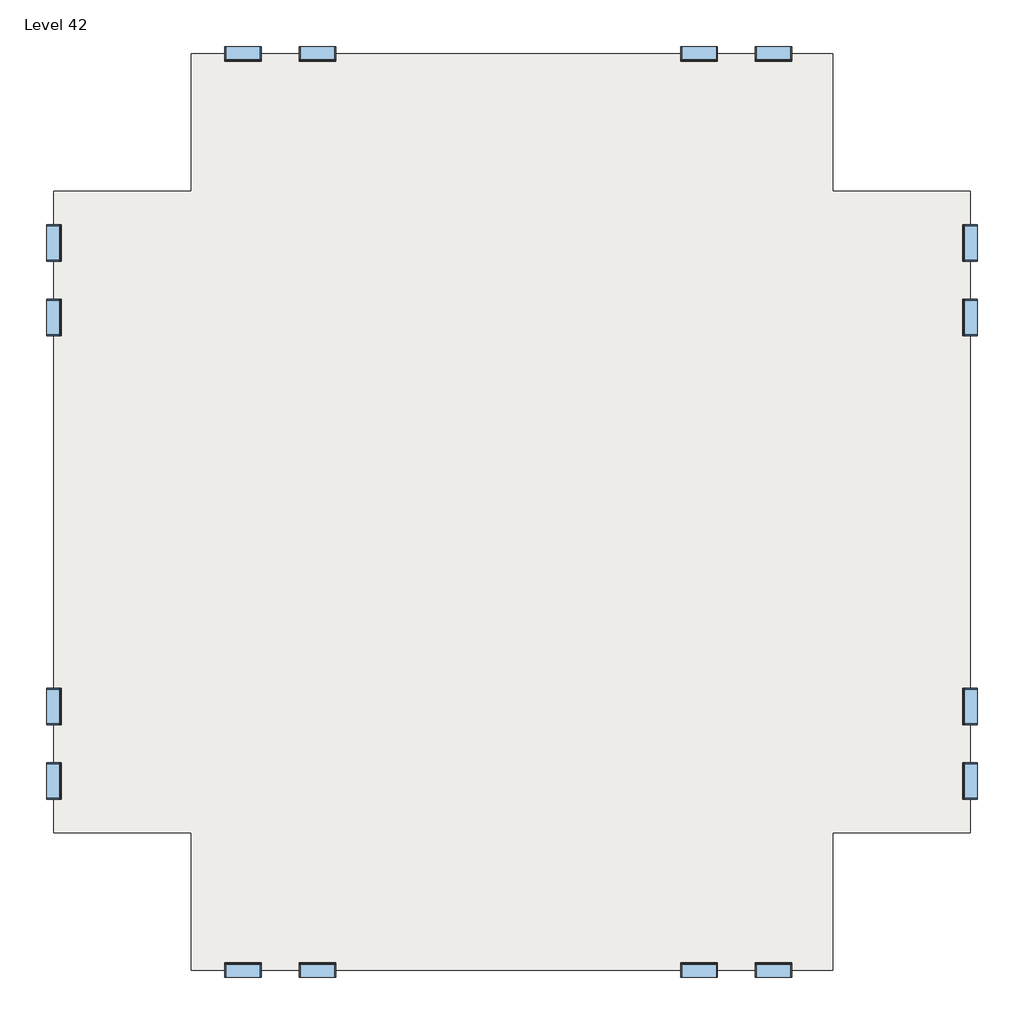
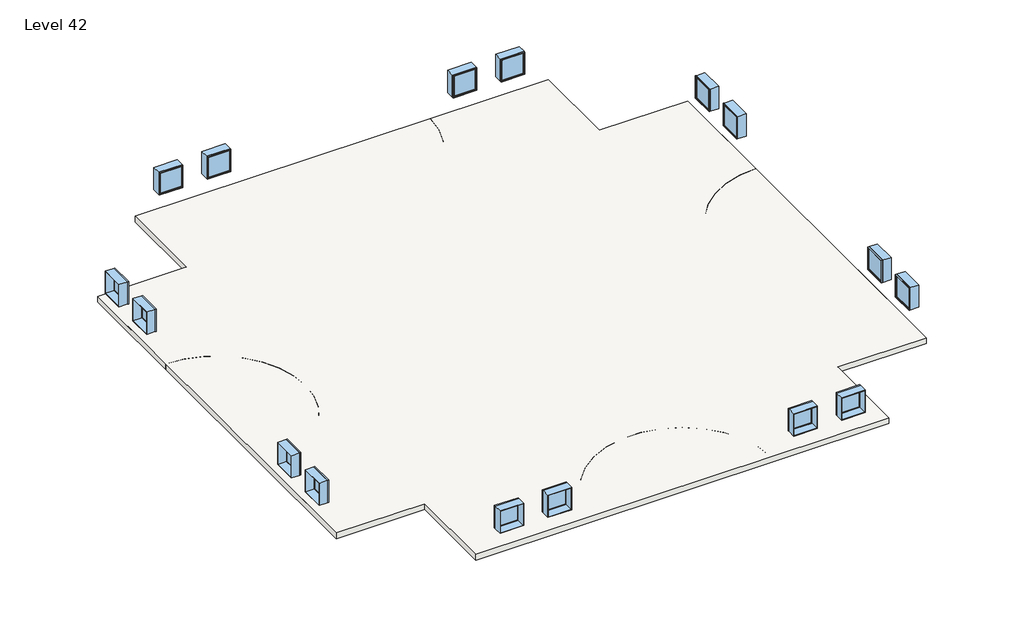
# One storey: 16 windows, 3 slabs.
"""IFC4 building model written with IfcOpenShell, lengths in millimetres."""

import ifcopenshell
import ifcopenshell.guid

model = None  # the IFC model being written
_history = None  # IfcOwnerHistory: only IFC2X3 demands one
_inside = {}  # id of a spatial element -> (the spatial element, [elements in it])
_under = {}  # id of a project, library or spatial element -> (it, [spatial elements below it])
_declared = {}  # id of a project -> (the project, [libraries it declares])
_typed = {}  # id of a type object -> (the type object, [elements of that type])
_made_of = {}  # id of a material, layer set ... -> (it, [elements and type objects made of it])


def new_model(schema):
    """Start an empty IFC model of exactly this schema.

    Asked for "IFC4X3", IfcOpenShell would pick the latest addendum, in which some entities
    have other attributes; the version numbers below select the first issue.
    IFC2X3 requires an IfcOwnerHistory on every rooted entity: one is made here for all.
    """
    global model, _history
    if schema == "IFC4X3":
        model = ifcopenshell.file(schema_version=(4, 3, 0, 0))
    else:
        model = ifcopenshell.file(schema=schema)
    _inside.clear()
    _under.clear()
    _declared.clear()
    _typed.clear()
    _made_of.clear()
    _history = None
    if model.schema == "IFC2X3":
        org = make("IfcOrganization", Name="unknown")
        user = make(
            "IfcPersonAndOrganization",
            ThePerson=make("IfcPerson", FamilyName="unknown"),
            TheOrganization=org,
        )
        app = make(
            "IfcApplication",
            ApplicationDeveloper=org,
            Version="unknown",
            ApplicationFullName="unknown",
            ApplicationIdentifier="unknown",
        )
        _history = make(
            "IfcOwnerHistory",
            OwningUser=user,
            OwningApplication=app,
            ChangeAction="ADDED",
            CreationDate=0,
        )
    return model


def make(cls, **values):
    """One entity of the class cls with the attributes given. An attribute that is None is left unset."""
    return model.create_entity(
        cls, **{name: value for name, value in values.items() if value is not None}
    )


def rooted(cls, **values):
    """An entity with a GlobalId (a new one), such as an element, a storey or a relation."""
    return make(cls, GlobalId=ifcopenshell.guid.new(), OwnerHistory=_history, **values)


def si_unit(unit_type, name, prefix=None):
    """IfcSIUnit, for example si_unit("LENGTHUNIT", "METRE", prefix="MILLI")."""
    return make("IfcSIUnit", UnitType=unit_type, Prefix=prefix, Name=name)


def assignment(units):
    """IfcUnitAssignment: the units of a project."""
    return None if units is None else make("IfcUnitAssignment", Units=units)


def point(xyz):
    """IfcCartesianPoint."""
    return None if xyz is None else make("IfcCartesianPoint", Coordinates=xyz)


def direction(xyz):
    """IfcDirection."""
    return None if xyz is None else make("IfcDirection", DirectionRatios=xyz)


def frame(location, z_axis=None, x_axis=None):
    """IfcAxis2Placement3D, a coordinate frame: its origin and axes. An axis left out is left unset."""
    return make(
        "IfcAxis2Placement3D",
        Location=point(location),
        Axis=direction(z_axis),
        RefDirection=direction(x_axis),
    )


def frame_2d(location, x_axis=None):
    """IfcAxis2Placement2D, a coordinate frame in the plane: its origin and x axis."""
    return make(
        "IfcAxis2Placement2D", Location=point(location), RefDirection=direction(x_axis)
    )


def origin():
    """The frame at (0, 0, 0) with its axes left unset."""
    return frame((0.0, 0.0, 0.0))


def place(relative_to, where):
    """IfcLocalPlacement: puts the frame where relative to a parent placement (None: the world)."""
    return make(
        "IfcLocalPlacement", PlacementRelTo=relative_to, RelativePlacement=where
    )


def context(
    kind, dimensions, precision=None, world=None, true_north=None, identifier=None
):
    """IfcGeometricRepresentationContext, for example the 3D "Model" context."""
    return make(
        "IfcGeometricRepresentationContext",
        ContextIdentifier=identifier,
        ContextType=kind,
        CoordinateSpaceDimension=dimensions,
        Precision=precision,
        WorldCoordinateSystem=world,
        TrueNorth=true_north,
    )


def project(units=None, contexts=None):
    """IfcProject with its units and contexts."""
    return rooted(
        "IfcProject",
        Name="project",
        RepresentationContexts=contexts,
        UnitsInContext=assignment(units),
    )


def spatial(cls, under=None, at=None, **own):
    """A site, building, storey or space (cls), placed at a placement, below another one or the project."""
    s = rooted(cls, ObjectPlacement=at, **own)
    if under is not None:
        _under.setdefault(under.id(), (under, []))[1].append(s)
    return s


def polyline(points):
    """IfcPolyline through the points."""
    return make("IfcPolyline", Points=[point(p) for p in points])


def circle_curve(where, radius):
    """IfcCircle in the frame where."""
    return make("IfcCircle", Position=where, Radius=radius)


def trimmed(basis, trim1, trim2, sense, master):
    """IfcTrimmedCurve: the piece of a basis curve between two trims."""
    return make(
        "IfcTrimmedCurve",
        BasisCurve=basis,
        Trim1=trim1,
        Trim2=trim2,
        SenseAgreement=sense,
        MasterRepresentation=master,
    )


def segment(curve, same_sense, transition):
    """IfcCompositeCurveSegment."""
    return make(
        "IfcCompositeCurveSegment",
        Transition=transition,
        SameSense=same_sense,
        ParentCurve=curve,
    )


def composite_curve(segments, self_intersect=None):
    """IfcCompositeCurve: segments joined end to end."""
    return make("IfcCompositeCurve", Segments=segments, SelfIntersect=self_intersect)


def outline(outer, holes=None, kind="AREA"):
    """IfcArbitraryClosedProfileDef: a profile drawn as a closed curve; with holes, ...WithVoids."""
    if holes is None:
        return make("IfcArbitraryClosedProfileDef", ProfileType=kind, OuterCurve=outer)
    return make(
        "IfcArbitraryProfileDefWithVoids",
        ProfileType=kind,
        OuterCurve=outer,
        InnerCurves=holes,
    )


def extrude(swept, where, along, depth):
    """IfcExtrudedAreaSolid: the profile swept, set in the frame where, extruded along a direction by depth."""
    return make(
        "IfcExtrudedAreaSolid",
        SweptArea=swept,
        Position=where,
        ExtrudedDirection=direction(along),
        Depth=depth,
    )


def shape(context_of_items, identifier, shape_type, items):
    """IfcShapeRepresentation: the items that make up one representation, for example the "Body"."""
    return make(
        "IfcShapeRepresentation",
        ContextOfItems=context_of_items,
        RepresentationIdentifier=identifier,
        RepresentationType=shape_type,
        Items=items,
    )


def source(mapping_origin, context_of_items, identifier, shape_type, items):
    """IfcRepresentationMap: a shape defined once, which mapped items show again and again."""
    return make(
        "IfcRepresentationMap",
        MappingOrigin=mapping_origin,
        MappedRepresentation=shape(context_of_items, identifier, shape_type, items),
    )


def transform(
    local_origin,
    x_axis=None,
    y_axis=None,
    z_axis=None,
    scale=None,
    scale2=None,
    scale3=None,
    uniform=True,
):
    """IfcCartesianTransformationOperator3D, or its non-uniform kind. x_axis, y_axis, z_axis: its Axis1, 2, 3."""
    if uniform:
        return make(
            "IfcCartesianTransformationOperator3D",
            Axis1=direction(x_axis),
            Axis2=direction(y_axis),
            LocalOrigin=point(local_origin),
            Scale=scale,
            Axis3=direction(z_axis),
        )
    return make(
        "IfcCartesianTransformationOperator3DnonUniform",
        Axis1=direction(x_axis),
        Axis2=direction(y_axis),
        LocalOrigin=point(local_origin),
        Scale=scale,
        Axis3=direction(z_axis),
        Scale2=scale2,
        Scale3=scale3,
    )


def mapped(mapping_source, mapping_target):
    """IfcMappedItem: shows the shape of a source again, moved by a transform."""
    return make(
        "IfcMappedItem", MappingSource=mapping_source, MappingTarget=mapping_target
    )


def made_of(thing, what):
    """Note that an element or type object is made of a material, layer set ...; save() writes the relation."""
    if what is not None:
        _made_of.setdefault(what.id(), (what, []))[1].append(thing)
    return thing


def element(
    cls,
    number,
    at=None,
    inside=None,
    cuts=None,
    type_object=None,
    material=None,
    context=None,
    identifier="Body",
    shape_type=None,
    held_by="IfcProductDefinitionShape",
    body=None,
    shapes=None,
    **own,
):
    """One element of the class cls, such as IfcWall. Its Tag is "e" and its number.

    at: its placement. inside: the storey or other place that contains it. cuts: it is an
    opening in that element (IfcRelVoidsElement). A single representation is given by context,
    identifier, shape_type and body (its items); several are given by shapes. held_by: the class
    of the entity that holds the representations. save() writes the other relations.
    """
    e = rooted(cls, Tag="e%d" % number, ObjectPlacement=at, **own)
    if body is not None:
        shapes = [shape(context, identifier, shape_type, body)]
    if shapes is not None:
        e.Representation = make(held_by, Representations=shapes)
    if inside is not None:
        _inside.setdefault(inside.id(), (inside, []))[1].append(e)
    if cuts is not None:
        rooted(
            "IfcRelVoidsElement", RelatingBuildingElement=cuts, RelatedOpeningElement=e
        )
    if type_object is not None:
        _typed.setdefault(type_object.id(), (type_object, []))[1].append(e)
    return made_of(e, material)


def aggregate(whole, parts):
    """IfcRelAggregates: a whole, such as a stair, and the parts it consists of."""
    return rooted("IfcRelAggregates", RelatingObject=whole, RelatedObjects=parts)


def save(model, path):
    """Write the relations noted so far, then the file.

    IfcRelAggregates (storeys below a building ...), IfcRelContainedInSpatialStructure (elements
    in a storey), IfcRelDefinesByType, IfcRelAssociatesMaterial and IfcRelDeclares: one each for
    every whole, place, type object, material and project.
    """
    for whole, parts in _under.values():
        aggregate(whole, parts)
    for where, things in _inside.values():
        rooted(
            "IfcRelContainedInSpatialStructure",
            RelatedElements=things,
            RelatingStructure=where,
        )
    for kind, things in _typed.values():
        rooted("IfcRelDefinesByType", RelatedObjects=things, RelatingType=kind)
    for what, things in _made_of.values():
        rooted("IfcRelAssociatesMaterial", RelatedObjects=things, RelatingMaterial=what)
    for by, libraries in _declared.values():
        rooted("IfcRelDeclares", RelatingContext=by, RelatedDefinitions=libraries)
    model.write(path)


def window_d0035ecf(model_context):
    return source(origin(), model_context, "Body", "SweptSolid", [
        extrude(outline(polyline([(508.0, 200.025), (-584.2, 200.025), (-584.2, 212.725), (508.0, 212.725), (508.0, 200.025)])), frame((0.0, 0.0, 977.9), z_axis=(0.0, 0.0, 1.0), x_axis=(1.0, 0.0, 0.0)), (0.0, 0.0, 1.0), 1092.2),
        extrude(outline(polyline([(2114.55, -628.65), (933.45, -628.65), (933.45, 552.45), (2114.55, 552.45), (2114.55, -628.65)]), holes=[polyline([(2070.1, -584.2), (2070.1, 508.0), (977.9, 508.0), (977.9, -584.2), (2070.1, -584.2)])]), frame((0.0, 184.15, 0.0), z_axis=(0.0, 1.0, 0.0), x_axis=(0.0, 0.0, 1.0)), (0.0, 0.0, 1.0), 44.45),
        extrude(outline(polyline([(2133.6, -647.7), (914.4, -647.7), (914.4, 571.5), (2133.6, 571.5), (2133.6, -647.7)]), holes=[polyline([(2101.85, -615.95), (2101.85, 539.75), (946.15, 539.75), (946.15, -615.95), (2101.85, -615.95)])]), frame((0.0, -247.65, 0.0), z_axis=(0.0, 1.0, 0.0), x_axis=(0.0, 0.0, 1.0)), (0.0, 0.0, 1.0), 431.8),
        extrude(outline(polyline([(2133.6, 571.5), (2133.6, -647.7), (914.4, -647.7), (914.4, 571.5), (2133.6, 571.5)]), holes=[polyline([(2114.55, 552.45), (933.45, 552.45), (933.45, -628.65), (2114.55, -628.65), (2114.55, 552.45)])]), frame((0.0, 184.15, 0.0), z_axis=(0.0, 1.0, 0.0), x_axis=(0.0, 0.0, 1.0)), (0.0, 0.0, 1.0), 63.5),
    ])


def window_d434eb62(model_context):
    return source(origin(), model_context, "Body", "SweptSolid", [
        extrude(outline(polyline([(508.0, -200.025), (508.0, -212.725), (-584.2, -212.725), (-584.2, -200.025), (508.0, -200.025)])), frame((0.0, 0.0, 977.9), z_axis=(0.0, 0.0, 1.0), x_axis=(1.0, 0.0, 0.0)), (0.0, 0.0, 1.0), 1092.2),
        extrude(outline(polyline([(2114.55, -628.65), (933.45, -628.65), (933.45, 552.45), (2114.55, 552.45), (2114.55, -628.65)]), holes=[polyline([(2070.1, -584.2), (2070.1, 508.0), (977.9, 508.0), (977.9, -584.2), (2070.1, -584.2)])]), frame((0.0, -228.6, 0.0), z_axis=(0.0, 1.0, 0.0), x_axis=(0.0, 0.0, 1.0)), (0.0, 0.0, 1.0), 44.45),
        extrude(outline(polyline([(2133.6, -647.7), (914.4, -647.7), (914.4, 571.5), (2133.6, 571.5), (2133.6, -647.7)]), holes=[polyline([(2101.85, -615.95), (2101.85, 539.75), (946.15, 539.75), (946.15, -615.95), (2101.85, -615.95)])]), frame((0.0, -184.15, 0.0), z_axis=(0.0, 1.0, 0.0), x_axis=(0.0, 0.0, 1.0)), (0.0, 0.0, 1.0), 431.8),
        extrude(outline(polyline([(2133.6, 571.5), (2133.6, -647.7), (914.4, -647.7), (914.4, 571.5), (2133.6, 571.5)]), holes=[polyline([(2114.55, 552.45), (933.45, 552.45), (933.45, -628.65), (2114.55, -628.65), (2114.55, 552.45)])]), frame((0.0, -247.65, 0.0), z_axis=(0.0, 1.0, 0.0), x_axis=(0.0, 0.0, 1.0)), (0.0, 0.0, 1.0), 63.5),
    ])


model = new_model("IFC4")

# Units and contexts
model_context = context("Model", 3, world=origin())
ifc_project = project(units=[si_unit("LENGTHUNIT", "METRE", prefix="MILLI")], contexts=[model_context])

# Site, building, storey
site = spatial("IfcSite", under=ifc_project)
building = spatial("IfcBuilding", under=site)
storey = spatial("IfcBuildingStorey", under=building, Name="Level 42", Elevation=124968.0)

# Slabs
placement = place(None, origin())
element("IfcSlab", 1, ObjectType="Generic - 12\"", at=placement, inside=storey, context=model_context, shape_type="SweptSolid", body=[
    extrude(outline(polyline([(-7150.3629456, 4479.6634547), (-7150.3629456, 9051.6634547), (14185.6370544, 9051.6634547), (14185.6370544, 4479.6634547), (18757.6370544, 4479.6634547), (18757.6370544, -16856.3365453), (14185.6370544, -16856.3365453), (14185.6370544, -21428.3365453), (-7150.3629456, -21428.3365453), (-7150.3629456, -16856.3365453), (-11722.3629456, -16856.3365453), (-11722.3629456, 4479.6634547), (-7150.3629456, 4479.6634547)])), frame((0.0, 0.0, 124663.2), z_axis=(0.0, 0.0, 1.0), x_axis=(1.0, 0.0, 0.0)), (0.0, 0.0, 1.0), 304.8),
])
element("IfcSlab", 2, ObjectType="Generic - 12\"", at=placement, inside=storey, context=model_context, shape_type="SweptSolid", body=[
    extrude(outline(polyline([(-7150.3629456, 4479.6634547), (-7150.3629456, 9051.6634547), (14185.6370544, 9051.6634547), (14185.6370544, 4479.6634547), (18757.6370544, 4479.6634547), (18757.6370544, -16856.3365453), (14185.6370544, -16856.3365453), (14185.6370544, -21428.3365453), (-7150.3629456, -21428.3365453), (-7150.3629456, -16856.3365453), (-11722.3629456, -16856.3365453), (-11722.3629456, 4479.6634547), (-7150.3629456, 4479.6634547)])), frame((0.0, 0.0, 124663.2), z_axis=(0.0, 0.0, 1.0), x_axis=(1.0, 0.0, 0.0)), (0.0, 0.0, 1.0), 304.8),
])
element("IfcSlab", 3, ObjectType="Generic - 12\"", at=placement, inside=storey, context=model_context, shape_type="SweptSolid", body=[
    extrude(outline(composite_curve([segment(polyline([(-7150.3629456, 4479.6634547), (-7150.3629456, 9051.6634547), (-1054.3629456, 9051.6634547)]), True, "CONTINUOUS"), segment(trimmed(circle_curve(frame_2d((3517.6370544, 9051.6634547)), 4572.0), [point((-1054.3629456, 9051.6634547))], [point((8089.6370544, 9051.6634547))], True, "CARTESIAN"), True, "CONTINUOUS"), segment(polyline([(8089.6370544, 9051.6634547), (14185.6370544, 9051.6634547), (14185.6370544, 4479.6634547), (18757.6370544, 4479.6634547), (18757.6370544, -1616.3365453)]), True, "CONTINUOUS"), segment(trimmed(circle_curve(frame_2d((18757.6370544, -6188.3365453)), 4572.0), [point((18757.6370544, -1616.3365453))], [point((18757.6370544, -10760.3365453))], True, "CARTESIAN"), True, "CONTINUOUS"), segment(polyline([(18757.6370544, -10760.3365453), (18757.6370544, -16856.3365453), (14185.6370544, -16856.3365453), (14185.6370544, -21428.3365453), (8089.6370544, -21428.3365453)]), True, "CONTINUOUS"), segment(trimmed(circle_curve(frame_2d((3517.6370544, -21428.3365453)), 4572.0), [point((8089.6370544, -21428.3365453))], [point((-1054.3629456, -21428.3365453))], True, "CARTESIAN"), True, "CONTINUOUS"), segment(polyline([(-1054.3629456, -21428.3365453), (-7150.3629456, -21428.3365453), (-7150.3629456, -16856.3365453), (-11722.3629456, -16856.3365453), (-11722.3629456, -10760.3365453)]), True, "CONTINUOUS"), segment(trimmed(circle_curve(frame_2d((-11722.3629456, -6188.3365453)), 4572.0), [point((-11722.3629456, -10760.3365453))], [point((-11722.3629456, -1616.3365453))], True, "CARTESIAN"), True, "CONTINUOUS"), segment(polyline([(-11722.3629456, -1616.3365453), (-11722.3629456, 4479.6634547), (-7150.3629456, 4479.6634547)]), True, "CONTINUOUS")], self_intersect=False)), frame((0.0, 0.0, 124663.2), z_axis=(0.0, 0.0, 1.0), x_axis=(1.0, 0.0, 0.0)), (0.0, 0.0, 1.0), 304.8),
])

# Windows
window_shape = window_d0035ecf(model_context)
element("IfcWindow", 4, ObjectType="Fixed : 48\" x 48\"", at=placement, inside=storey, context=model_context, shape_type="MappedRepresentation", body=[
    mapped(window_shape, transform((-11719.1879456, 247.3884547, 124968.0), x_axis=(0.0, -1.0, 0.0), y_axis=(1.0, 0.0, 0.0), z_axis=(0.0, 0.0, 1.0))),
])
element("IfcWindow", 5, ObjectType="Fixed : 48\" x 48\"", at=placement, inside=storey, context=model_context, shape_type="MappedRepresentation", body=[
    mapped(window_shape, transform((-5469.1993281, 9048.4884547, 124968.0), x_axis=(-1.0, 0.0, 0.0), y_axis=(0.0, -1.0, 0.0), z_axis=(0.0, 0.0, 1.0))),
])
element("IfcWindow", 6, ObjectType="Fixed : 48\" x 48\"", at=placement, inside=storey, context=model_context, shape_type="MappedRepresentation", body=[
    mapped(window_shape, transform((-11719.1879456, -15175.1729277, 124968.0), x_axis=(0.0, -1.0, 0.0), y_axis=(1.0, 0.0, 0.0), z_axis=(0.0, 0.0, 1.0))),
])
element("IfcWindow", 7, ObjectType="Fixed : 48\" x 48\"", at=placement, inside=storey, context=model_context, shape_type="MappedRepresentation", body=[
    mapped(window_shape, transform((-2918.0879456, -21425.1615453, 124968.0), x_axis=(1.0, 0.0, 0.0), y_axis=(0.0, 1.0, 0.0), z_axis=(0.0, 0.0, 1.0))),
])
element("IfcWindow", 8, ObjectType="Fixed : 48\" x 48\"", at=placement, inside=storey, context=model_context, shape_type="MappedRepresentation", body=[
    mapped(window_shape, transform((18754.4620544, 2798.4998372, 124968.0), x_axis=(0.0, 1.0, 0.0), y_axis=(-1.0, 0.0, 0.0), z_axis=(0.0, 0.0, 1.0))),
])
element("IfcWindow", 9, ObjectType="Fixed : 48\" x 48\"", at=placement, inside=storey, context=model_context, shape_type="MappedRepresentation", body=[
    mapped(window_shape, transform((9705.7120544, 9048.4884547, 124968.0), x_axis=(-1.0, 0.0, 0.0), y_axis=(0.0, -1.0, 0.0), z_axis=(0.0, 0.0, 1.0))),
])
element("IfcWindow", 10, ObjectType="Fixed : 48\" x 48\"", at=placement, inside=storey, context=model_context, shape_type="MappedRepresentation", body=[
    mapped(window_shape, transform((18754.4620544, -12624.0615453, 124968.0), x_axis=(0.0, 1.0, 0.0), y_axis=(-1.0, 0.0, 0.0), z_axis=(0.0, 0.0, 1.0))),
])
element("IfcWindow", 11, ObjectType="Fixed : 48\" x 48\"", at=placement, inside=storey, context=model_context, shape_type="MappedRepresentation", body=[
    mapped(window_shape, transform((12256.8234368, -21425.1615453, 124968.0), x_axis=(1.0, 0.0, 0.0), y_axis=(0.0, 1.0, 0.0), z_axis=(0.0, 0.0, 1.0))),
])
window_2_shape = window_d434eb62(model_context)
element("IfcWindow", 12, ObjectType="Fixed : 48\" x 48\"", at=placement, inside=storey, context=model_context, shape_type="MappedRepresentation", body=[
    mapped(window_2_shape, transform((-11719.1879456, 2798.4998372, 124968.0), x_axis=(0.0, 1.0, 0.0), y_axis=(-1.0, 0.0, 0.0), z_axis=(0.0, 0.0, 1.0))),
])
element("IfcWindow", 13, ObjectType="Fixed : 48\" x 48\"", at=placement, inside=storey, context=model_context, shape_type="MappedRepresentation", body=[
    mapped(window_2_shape, transform((-2918.0879456, 9048.4884547, 124968.0), x_axis=(1.0, 0.0, 0.0), y_axis=(0.0, 1.0, 0.0), z_axis=(0.0, 0.0, 1.0))),
])
element("IfcWindow", 14, ObjectType="Fixed : 48\" x 48\"", at=placement, inside=storey, context=model_context, shape_type="MappedRepresentation", body=[
    mapped(window_2_shape, transform((-11719.1879456, -12624.0615453, 124968.0), x_axis=(0.0, 1.0, 0.0), y_axis=(-1.0, 0.0, 0.0), z_axis=(0.0, 0.0, 1.0))),
])
element("IfcWindow", 15, ObjectType="Fixed : 48\" x 48\"", at=placement, inside=storey, context=model_context, shape_type="MappedRepresentation", body=[
    mapped(window_2_shape, transform((-5469.1993281, -21425.1615453, 124968.0), x_axis=(-1.0, 0.0, 0.0), y_axis=(0.0, -1.0, 0.0), z_axis=(0.0, 0.0, 1.0))),
])
element("IfcWindow", 16, ObjectType="Fixed : 48\" x 48\"", at=placement, inside=storey, context=model_context, shape_type="MappedRepresentation", body=[
    mapped(window_2_shape, transform((18754.4620544, 247.3884547, 124968.0), x_axis=(0.0, -1.0, 0.0), y_axis=(1.0, 0.0, 0.0), z_axis=(0.0, 0.0, 1.0))),
])
element("IfcWindow", 17, ObjectType="Fixed : 48\" x 48\"", at=placement, inside=storey, context=model_context, shape_type="MappedRepresentation", body=[
    mapped(window_2_shape, transform((12256.8234368, 9048.4884547, 124968.0), x_axis=(1.0, 0.0, 0.0), y_axis=(0.0, 1.0, 0.0), z_axis=(0.0, 0.0, 1.0))),
])
element("IfcWindow", 18, ObjectType="Fixed : 48\" x 48\"", at=placement, inside=storey, context=model_context, shape_type="MappedRepresentation", body=[
    mapped(window_2_shape, transform((18754.4620544, -15175.1729277, 124968.0), x_axis=(0.0, -1.0, 0.0), y_axis=(1.0, 0.0, 0.0), z_axis=(0.0, 0.0, 1.0))),
])
element("IfcWindow", 19, ObjectType="Fixed : 48\" x 48\"", at=placement, inside=storey, context=model_context, shape_type="MappedRepresentation", body=[
    mapped(window_2_shape, transform((9705.7120544, -21425.1615453, 124968.0), x_axis=(-1.0, 0.0, 0.0), y_axis=(0.0, -1.0, 0.0), z_axis=(0.0, 0.0, 1.0))),
])

save(model, "model.ifc")
